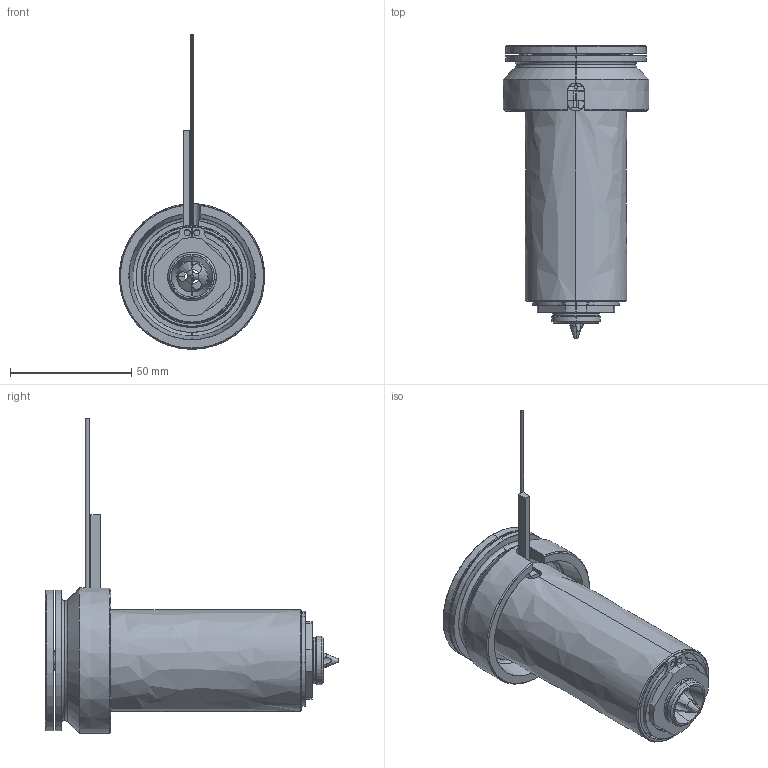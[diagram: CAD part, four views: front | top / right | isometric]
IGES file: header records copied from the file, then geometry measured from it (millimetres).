
Start section: SolidWorks IGES file using analytic representation for surfaces
Global section: file name: C:\Documents and Settings\ws-20\Desktop\TEM\UGEP6004-S-A-1 [Øf-1.3 ØC-15].IGS; native system: SolidWorks 2012; preprocessor: SolidWorks 2012; author: ws-20; date: 120427.092753; units: millimetre
Bounding box: 60 x 120.8 x 129.65 mm (x, y, z)
Surface area: 57697.8 mm2 (no closed solid volume)
Topology: 0 solids, 0 shells, 132 faces, 2485 edges, 2485 vertices
Faces by surface type: revolution 87, bspline 45
